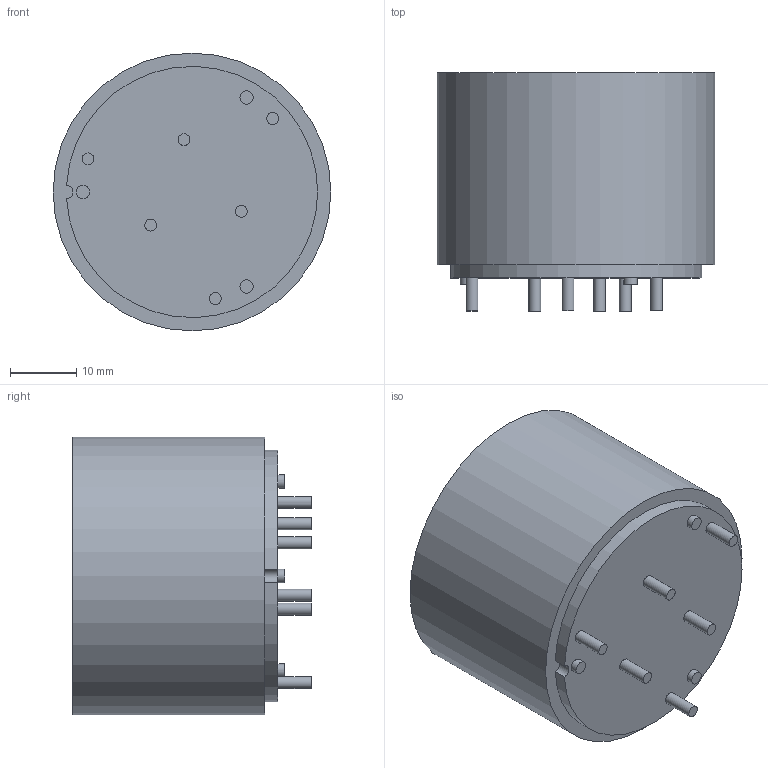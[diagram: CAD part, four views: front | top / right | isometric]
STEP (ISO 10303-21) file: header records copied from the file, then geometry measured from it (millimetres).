
FILE_DESCRIPTION(/* description */ (''),/* implementation_level */ '2;1');
FILE_NAME(/* name */ 'F:\Done\2016\多产品3D模拟\终版\新建文件夹\6123-X315\6123-X315 3D Model.stp',/* time_stamp */ '2016-07-12T14:55:07+08:00',/* author */ ('CN000562'),/* organization */ (''),/* preprocessor_version */ 'ST-DEVELOPER v16.5',/* originating_system */ 'Autodesk Inventor 2017',/* authorisation */ '');
FILE_SCHEMA (('AUTOMOTIVE_DESIGN { 1 0 10303 214 3 1 1 }'));
Length unit declared in the file: millimetre
Products named in the file (1): 6123-X315
Bounding box: 42 x 36 x 42 mm (x, y, z)
Volume: 42528.7 mm3; surface area: 7026.8 mm2
Topology: 1 solids, 1 shells, 24 faces, 36 edges, 24 vertices
Faces by surface type: cylinder 12, plane 12
Full cylindrical faces by diameter (mm): 1.8 x6, 2 x3, 42 x1
Entity records: 524 total; most frequent: DIRECTION 100, CARTESIAN_POINT 75, ORIENTED_EDGE 52, AXIS2_PLACEMENT_3D 49, EDGE_LOOP 44, EDGE_CURVE 26, FACE_OUTER_BOUND 24, CIRCLE 24
